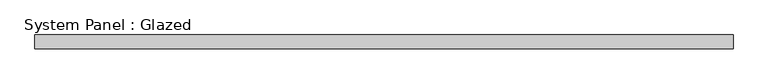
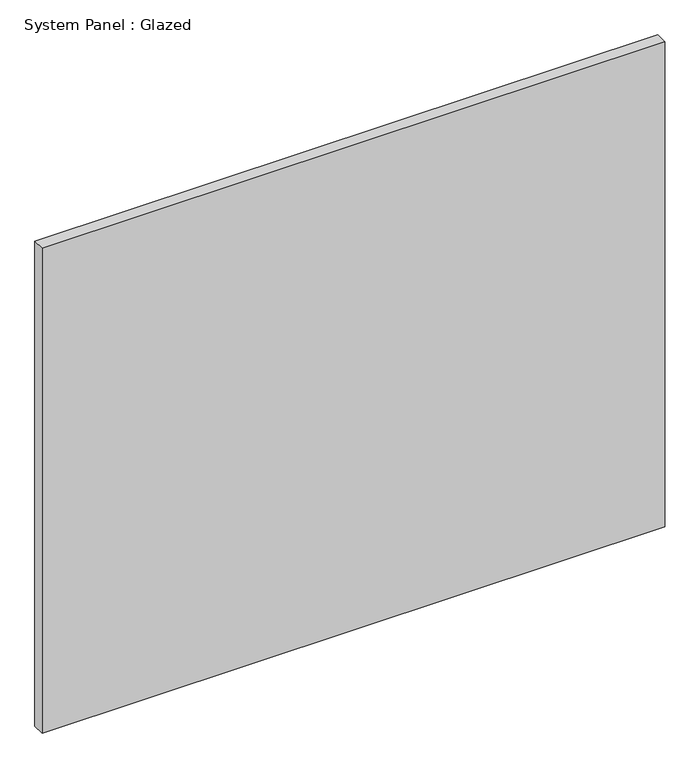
"""IFC4 building model written with IfcOpenShell, lengths in millimetres: plate geometry, System Panel : Glazed."""

from ifc_helpers import new_model, si_unit, origin, origin_with_axes, place, context, project, spatial, polyline, outline, extrude, source, transform, mapped, element, save


def system_panel_glazed_da0c020f(model_context):
    return source(origin(), model_context, "Body", "SweptSolid", [
        extrude(outline(polyline([(631.2500001, 24.5), (-631.2500001, 24.5), (-631.2500001, 49.5), (631.2500001, 49.5), (631.2500001, 24.5)])), origin_with_axes(), (0.0, 0.0, 1.0), 1038.7564813),
    ])


if __name__ == "__main__":
    model = new_model("IFC4")
    model_context = context("Model", 3, world=origin())
    ifc_project = project(units=[si_unit("LENGTHUNIT", "METRE", prefix="MILLI")], contexts=[model_context])
    site = spatial("IfcSite", under=ifc_project)
    building = spatial("IfcBuilding", under=site)
    placement = place(None, origin())
    system_panel_glazed_shape = system_panel_glazed_da0c020f(model_context)
    element("IfcPlate", 1, ObjectType="System Panel : Glazed", at=placement, inside=building, context=model_context, shape_type="MappedRepresentation", body=[
        mapped(system_panel_glazed_shape, transform((0.0, 0.0, 0.0), x_axis=(1.0, 0.0, 0.0), y_axis=(0.0, 1.0, 0.0), z_axis=(0.0, 0.0, 1.0))),
    ])
    save(model, "model.ifc")
